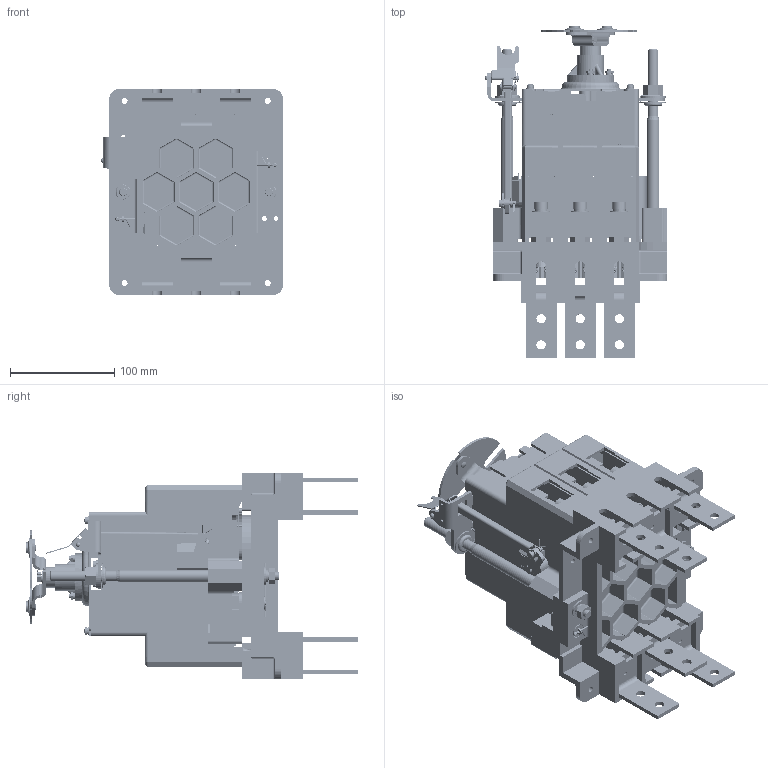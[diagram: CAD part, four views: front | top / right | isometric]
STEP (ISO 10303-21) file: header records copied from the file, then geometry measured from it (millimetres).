
FILE_DESCRIPTION (( 'STEP AP214' ), '1' );
FILE_NAME ('臍57-35 340050.STEP', '2014-01-28T10:22:33', ( 'www.PHILka.RU' ), ( 'WareZ Provider ' ), 'SwSTEP 2.0', 'SolidWorks 2007', '' );
FILE_SCHEMA (( 'AUTOMOTIVE_DESIGN' ));
Length unit declared in the file: millimetre
Products named in the file (1): 臍57-35 340050
Bounding box: 175 x 318.45 x 198 mm (x, y, z)
Surface area: 484124.2 mm2 (no closed solid volume)
Topology: 0 solids, 386 shells, 2829 faces, 10937 edges, 8095 vertices
Faces by surface type: plane 1062, cylinder 821, torus 718, bspline 112, sphere 60, cone 56
Entity records: 159534 total; most frequent: CARTESIAN_POINT 39820, DIRECTION 18309, ORIENTED_EDGE 16760, EDGE_CURVE 10923, VERTEX_POINT 8095, AXIS2_PLACEMENT_3D 6783, VECTOR 4743, LINE 4743
